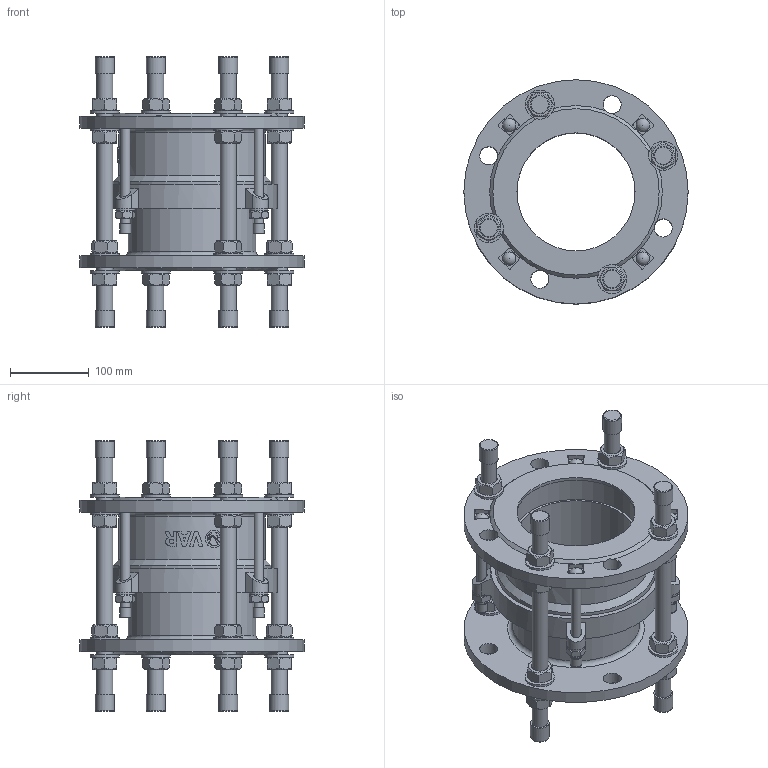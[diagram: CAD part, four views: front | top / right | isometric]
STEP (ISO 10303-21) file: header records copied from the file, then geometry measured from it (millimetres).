
FILE_DESCRIPTION(('STEP AP242'), '1');
FILE_NAME('Ìîíòàæíàÿ âñòàâêà', '', ('UNSPECIFIED'), ('UNSPECIFIED'), 'C3D Converter', 'C3D Toolkit', '');
FILE_SCHEMA(('AP242_MANAGED_MODEL_BASED_3D_ENGINEERING_MIM_LF { 1 0 10303 442 1 1 4 }'));
Length unit declared in the file: millimetre
Products named in the file (13): ШМ.М16.310
Assembly tree (64 placements, depth 2):
  (unnamed)
    (unnamed)
    (unnamed)
    (unnamed)
    (unnamed)  x16
    (unnamed)  x16
    ШМ.М16.310  x4
    (unnamed)  x8
    (unnamed)
    (unnamed)  x4
    (unnamed)  x4
    (unnamed)  x4
    (unnamed)  x4
Bounding box: 285 x 285 x 344 mm (x, y, z)
Volume: 3297578.9 mm3; surface area: 838321.5 mm2
Topology: 64 solids, 64 shells, 668 faces, 1466 edges, 936 vertices
Faces by surface type: plane 385, cylinder 155, cone 99, torus 14, extrusion 11, sphere 4
Full cylindrical faces by diameter (mm): 12 x12, 13 x4, 14 x4, 14.4 x4, 20 x28, 21 x16, 21.964 x1, 23 x16, 24 x12, 37 x16, 150 x2, 162 x2, 168 x2, 186 x1, 192 x1, 201 x1, 205 x1, 217 x1, 285 x2
Entity records: 15520 total; most frequent: CARTESIAN_POINT 7515, DIRECTION 1256, ORIENTED_EDGE 1092, EDGE_CURVE 546, AXIS2_PLACEMENT_3D 515, VERTEX_POINT 399, EDGE_LOOP 377, FACE_BOUND 271
